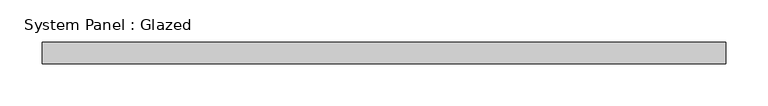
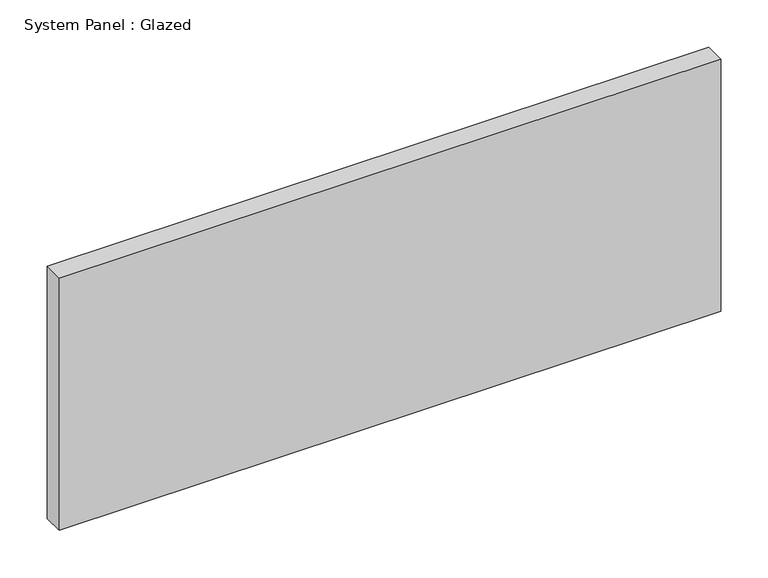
"""IFC4 building model written with IfcOpenShell, lengths in millimetres: plate geometry, System Panel : Glazed."""

from ifc_helpers import new_model, si_unit, origin, origin_with_axes, place, context, project, spatial, polyline, outline, extrude, source, transform, mapped, element, save


def system_panel_glazed_474c7c4c(model_context):
    return source(origin(), model_context, "Body", "SweptSolid", [
        extrude(outline(polyline([(403.1249999, 24.5), (-403.1249999, 24.5), (-403.1249999, 49.5), (403.1249999, 49.5), (403.1249999, 24.5)])), origin_with_axes(), (0.0, 0.0, 1.0), 325.0),
    ])


if __name__ == "__main__":
    model = new_model("IFC4")
    model_context = context("Model", 3, world=origin())
    ifc_project = project(units=[si_unit("LENGTHUNIT", "METRE", prefix="MILLI")], contexts=[model_context])
    site = spatial("IfcSite", under=ifc_project)
    building = spatial("IfcBuilding", under=site)
    placement = place(None, origin())
    system_panel_glazed_shape = system_panel_glazed_474c7c4c(model_context)
    element("IfcPlate", 1, ObjectType="System Panel : Glazed", at=placement, inside=building, context=model_context, shape_type="MappedRepresentation", body=[
        mapped(system_panel_glazed_shape, transform((0.0, 0.0, 0.0), x_axis=(1.0, 0.0, 0.0), y_axis=(0.0, 1.0, 0.0), z_axis=(0.0, 0.0, 1.0))),
    ])
    save(model, "model.ifc")
